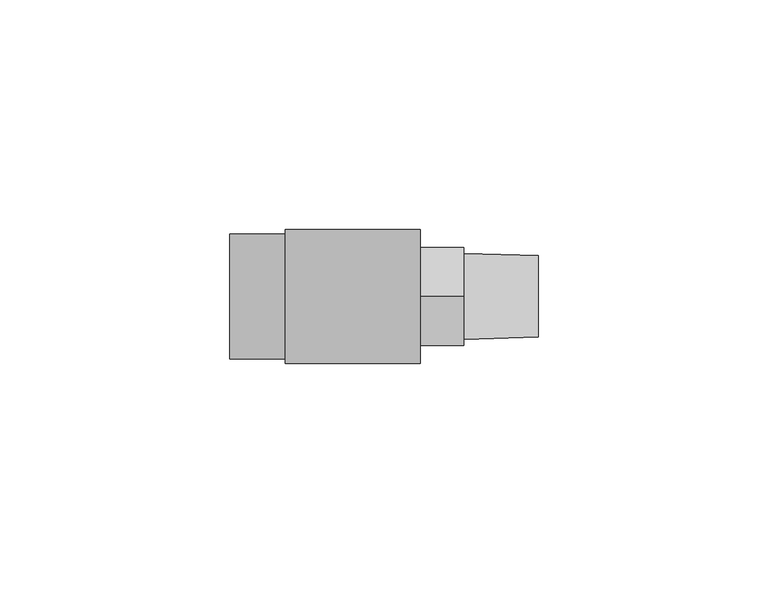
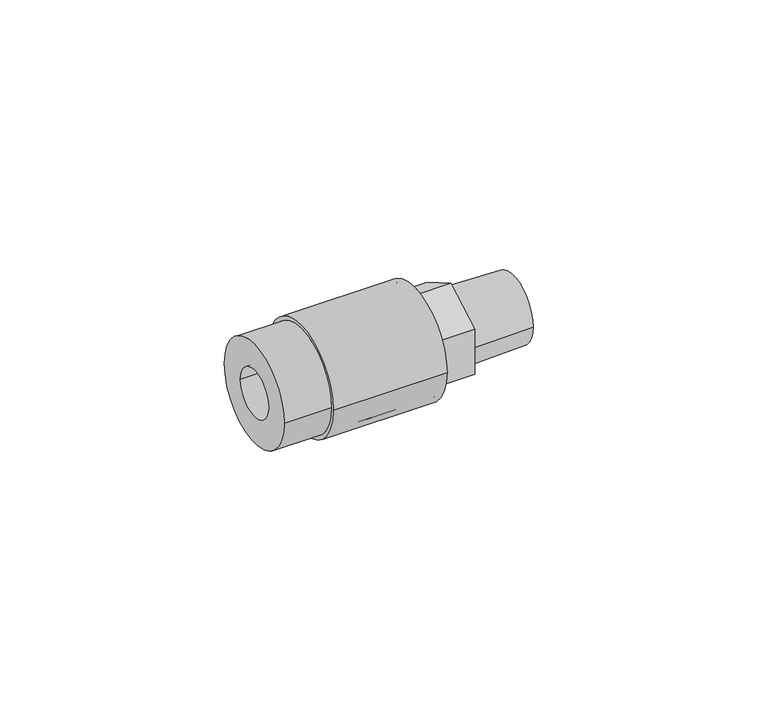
"""IFC4 building model written with IfcOpenShell, lengths in millimetres: pipe fitting geometry, Aquatherm - Fusion Outlet Transition Male : POTABLE BRASS - HEX."""

from ifc_helpers import new_model, si_unit, frame, origin, place, context, project, spatial, polyline, circle_curve, source, transform, mapped, element, save
from ifc_brep_helpers import plane_surface, cylinder_surface, revolved_surface, advanced_brep


def pipe_fitting_213a66a3(model_context):
    return source(origin(), model_context, "Body", "AdvancedBrep", [
        advanced_brep(
        [(9.445625, 13.589, 0.0), (9.445625, -13.589, 0.0), (9.445625, 6.35, 0.0), (9.445625, -6.35, 0.0), (29.257625, 13.589, 0.0), (29.257625, -13.589, 0.0), (29.257625, 0.0, -12.3183453), (29.257625, -10.668, -6.1591727), (29.257625, -10.668, 6.1591727), (29.257625, 0.0, 12.3183453), (29.257625, 10.668, 6.1591727), (29.257625, 10.668, -6.1591727), (29.257625, 6.35, 0.0), (29.257625, -6.35, 0.0), (38.909625, 0.0, -12.3183453), (38.909625, 10.668, -6.1591727), (38.909625, 10.668, 6.1591727), (38.909625, 0.0, 12.3183453), (38.909625, -10.668, 6.1591727), (38.909625, -10.668, -6.1591727), (38.909625, 9.3810449, 0.0), (38.909625, -9.3810449, 0.0), (38.909625, 6.35, 0.0), (38.909625, -6.35, 0.0), (55.165625, -6.35, 0.0), (55.165625, 6.35, 0.0), (55.165625, -8.8752051, 0.0), (55.165625, 8.8752051, 0.0)],
        [
            (0, 1, circle_curve(frame((9.445625, 0.0, 0.0), z_axis=(-1.0, 0.0, 0.0), x_axis=(0.0, -1.0, 0.0)), 13.589)),
            (1, 0, circle_curve(frame((9.445625, 0.0, 0.0), z_axis=(-1.0, 0.0, 0.0), x_axis=(0.0, -1.0, 0.0)), 13.589)),
            (2, 3, circle_curve(frame((9.445625, 0.0, 0.0), z_axis=(1.0, 0.0, 0.0), x_axis=(0.0, -1.0, 0.0)), 6.35)),
            (3, 2, circle_curve(frame((9.445625, 0.0, 0.0), z_axis=(1.0, 0.0, 0.0), x_axis=(0.0, -1.0, 0.0)), 6.35)),
            (4, 5, circle_curve(frame((29.257625, 0.0, 0.0), z_axis=(1.0, 0.0, 0.0), x_axis=(0.0, -1.0, 0.0)), 13.589)),
            (5, 4, circle_curve(frame((29.257625, 0.0, 0.0), z_axis=(1.0, 0.0, 0.0), x_axis=(0.0, -1.0, 0.0)), 13.589)),
            (6, 7),
            (7, 8),
            (8, 9),
            (9, 10),
            (10, 11),
            (11, 6),
            (0, 4),
            (5, 1),
            (2, 12),
            (12, 13, circle_curve(frame((29.257625, 0.0, 0.0), z_axis=(1.0, 0.0, 0.0), x_axis=(0.0, -1.0, 0.0)), 6.35)),
            (13, 3),
            (13, 12, circle_curve(frame((29.257625, 0.0, 0.0), z_axis=(1.0, 0.0, 0.0), x_axis=(0.0, -1.0, 0.0)), 6.35)),
            (14, 15),
            (15, 16),
            (16, 17),
            (17, 18),
            (18, 19),
            (19, 14),
            (20, 21, circle_curve(frame((38.909625, 0.0, 0.0), z_axis=(-1.0, 0.0, 0.0), x_axis=(0.0, -1.0, 0.0)), 9.3810449)),
            (21, 20, circle_curve(frame((38.909625, 0.0, 0.0), z_axis=(-1.0, 0.0, 0.0), x_axis=(0.0, -1.0, 0.0)), 9.3810449)),
            (19, 7),
            (6, 14),
            (18, 8),
            (17, 9),
            (16, 10),
            (15, 11),
            (12, 22),
            (22, 23, circle_curve(frame((38.909625, 0.0, 0.0), z_axis=(1.0, 0.0, 0.0), x_axis=(0.0, -1.0, 0.0)), 6.35)),
            (23, 13),
            (23, 22, circle_curve(frame((38.909625, 0.0, 0.0), z_axis=(1.0, 0.0, 0.0), x_axis=(0.0, -1.0, 0.0)), 6.35)),
            (23, 24),
            (24, 25, circle_curve(frame((55.165625, 0.0, 0.0), z_axis=(1.0, 0.0, 0.0), x_axis=(0.0, -1.0, 0.0)), 6.35)),
            (25, 22),
            (25, 24, circle_curve(frame((55.165625, 0.0, 0.0), z_axis=(1.0, 0.0, 0.0), x_axis=(0.0, -1.0, 0.0)), 6.35)),
            (24, 26),
            (26, 27, circle_curve(frame((55.165625, 0.0, 0.0), z_axis=(1.0, 0.0, 0.0), x_axis=(0.0, -1.0, 0.0)), 8.8752051)),
            (27, 25),
            (27, 26, circle_curve(frame((55.165625, 0.0, 0.0), z_axis=(1.0, 0.0, 0.0), x_axis=(0.0, -1.0, 0.0)), 8.8752051)),
            (26, 21),
            (20, 27),
        ],
        [
            plane_surface(frame((9.445625, -13.589, 0.0), z_axis=(-1.0, 0.0, 0.0), x_axis=(0.0, 0.0, 1.0))),
            plane_surface(frame((29.257625, -13.589, 0.0), z_axis=(1.0, 0.0, 0.0), x_axis=(0.0, 0.0, -1.0))),
            cylinder_surface(frame((29.257625, 0.0, 0.0), z_axis=(-1.0, 0.0, 0.0), x_axis=(0.0, -1.0, 0.0)), 13.589),
            revolved_surface(polyline([(29.257625, -6.35, 0.0), (9.445625, -6.35, 0.0)]), (11.810406, 0.0, 0.0), (1.0, 0.0, 0.0)),
            plane_surface(frame((38.909625, 0.0, -12.3183453), z_axis=(1.0, 0.0, 0.0), x_axis=(0.0, 0.8660254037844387, -0.5))),
            plane_surface(frame((29.257625, 0.0, -12.3183453), z_axis=(0.0, -0.5, -0.8660254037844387), x_axis=(1.0, 0.0, 0.0))),
            plane_surface(frame((29.257625, -10.668, -6.1591727), z_axis=(0.0, -1.0, 0.0), x_axis=(1.0, 0.0, 0.0))),
            plane_surface(frame((29.257625, -10.668, 6.1591727), z_axis=(0.0, -0.49999999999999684, 0.8660254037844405), x_axis=(1.0, 0.0, 0.0))),
            plane_surface(frame((29.257625, 0.0, 12.3183453), z_axis=(0.0, 0.5000000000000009, 0.8660254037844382), x_axis=(1.0, 0.0, 0.0))),
            plane_surface(frame((29.257625, 10.668, 6.1591727), z_axis=(0.0, 1.0, 0.0), x_axis=(1.0, 0.0, 0.0))),
            plane_surface(frame((29.257625, 10.668, -6.1591727), z_axis=(0.0, 0.49999999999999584, -0.8660254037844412), x_axis=(1.0, 0.0, 0.0))),
            revolved_surface(polyline([(38.909625, -6.35, 0.0), (29.257625, -6.35, 0.0)]), (29.257625, 0.0, 0.0), (1.0, 0.0, 0.0)),
            revolved_surface(polyline([(55.165625, -6.35, 0.0), (38.909625, -6.35, 0.0)]), (90.0386938, 0.0, 0.0), (1.0, 0.0, 0.0)),
            plane_surface(frame((55.165625, 0.0, 0.0), z_axis=(1.0, 0.0, 0.0), x_axis=(0.0, -1.0, 0.0))),
            revolved_surface(polyline([(38.909625, -9.3810449, 0.0), (55.165625, -8.8752051, 0.0)]), (90.0386938, 0.0, 0.0), (1.0, 0.0, 0.0)),
        ],
        [
            (0, [[1, 2], [3, 4]]),
            (1, [[5, 6], [7, 8, 9, 10, 11, 12]]),
            (2, [[-1, 13, -6, 14]]),
            (2, [[-2, -14, -5, -13]]),
            (3, [[-3, 15, 16, 17]]),
            (3, [[-4, -17, 18, -15]]),
            (4, [[19, 20, 21, 22, 23, 24], [25, 26]]),
            (5, [[-24, 27, -7, 28]]),
            (6, [[-23, 29, -8, -27]]),
            (7, [[-22, 30, -9, -29]]),
            (8, [[-21, 31, -10, -30]]),
            (9, [[-20, 32, -11, -31]]),
            (10, [[-19, -28, -12, -32]]),
            (11, [[33, 34, 35, -16]]),
            (11, [[-33, -18, -35, 36]]),
            (12, [[37, 38, 39, -36]]),
            (12, [[-37, -34, -39, 40]]),
            (13, [[-38, 41, 42, 43]]),
            (13, [[-40, -43, 44, -41]]),
            (14, [[-42, 45, -25, 46]]),
            (14, [[-44, -46, -26, -45]]),
        ],
    ),
        advanced_brep(
        [(9.4257813, 13.5929688, 0.0), (9.4257813, -13.5929687, 0.0), (9.4257813, 6.35, 0.0), (9.4257813, -6.35, 0.0), (-12.1508108, -6.35, 0.0), (-12.1508108, 6.35, 0.0), (-12.1508108, -13.5929688, 0.0), (-12.1508108, 13.5929688, 0.0), (0.0, 13.5929688, 0.0), (0.0, -13.5929688, 0.0), (29.4441562, 14.6347656, 0.0), (29.4441562, -14.6347656, 0.0), (29.4441562, 13.5929688, 0.0), (29.4441562, -13.5929687, 0.0), (0.0, -14.6347656, 0.0), (0.0, 14.6347656, 0.0)],
        [
            (0, 1, circle_curve(frame((9.4257813, 0.0, 0.0), z_axis=(1.0, 0.0, 0.0), x_axis=(0.0, -1.0, 0.0)), 13.5929688)),
            (1, 0, circle_curve(frame((9.4257813, 0.0, 0.0), z_axis=(1.0, 0.0, 0.0), x_axis=(0.0, -1.0, 0.0)), 13.5929688)),
            (2, 3, circle_curve(frame((9.4257813, 0.0, 0.0), z_axis=(-1.0, 0.0, 0.0), x_axis=(0.0, -1.0, 0.0)), 6.35)),
            (3, 2, circle_curve(frame((9.4257813, 0.0, 0.0), z_axis=(-1.0, 0.0, 0.0), x_axis=(0.0, -1.0, 0.0)), 6.35)),
            (4, 5, circle_curve(frame((-12.1508108, 0.0, 0.0), z_axis=(-1.0, 0.0, 0.0), x_axis=(0.0, -1.0, 0.0)), 6.35)),
            (5, 2),
            (3, 4),
            (5, 4, circle_curve(frame((-12.1508108, 0.0, 0.0), z_axis=(-1.0, 0.0, 0.0), x_axis=(0.0, -1.0, 0.0)), 6.35)),
            (6, 7, circle_curve(frame((-12.1508108, 0.0, 0.0), z_axis=(1.0, 0.0, 0.0), x_axis=(0.0, -1.0, 0.0)), 13.5929688)),
            (7, 8),
            (8, 9, circle_curve(frame((0.0, 0.0, 0.0), z_axis=(-1.0, 0.0, 0.0), x_axis=(0.0, -1.0, 0.0)), 13.5929688)),
            (9, 6),
            (7, 6, circle_curve(frame((-12.1508108, 0.0, 0.0), z_axis=(1.0, 0.0, 0.0), x_axis=(0.0, -1.0, 0.0)), 13.5929688)),
            (9, 8, circle_curve(frame((0.0, 0.0, 0.0), z_axis=(-1.0, 0.0, 0.0), x_axis=(0.0, -1.0, 0.0)), 13.5929688)),
            (10, 11, circle_curve(frame((29.4441562, 0.0, 0.0), z_axis=(1.0, 0.0, 0.0), x_axis=(0.0, -1.0, 0.0)), 14.6347656)),
            (11, 10, circle_curve(frame((29.4441562, 0.0, 0.0), z_axis=(1.0, 0.0, 0.0), x_axis=(0.0, -1.0, 0.0)), 14.6347656)),
            (12, 13, circle_curve(frame((29.4441562, 0.0, 0.0), z_axis=(-1.0, 0.0, 0.0), x_axis=(0.0, -1.0, 0.0)), 13.5929688)),
            (13, 12, circle_curve(frame((29.4441562, 0.0, 0.0), z_axis=(-1.0, 0.0, 0.0), x_axis=(0.0, -1.0, 0.0)), 13.5929688)),
            (13, 1),
            (0, 12),
            (11, 14),
            (14, 15, circle_curve(frame((0.0, 0.0, 0.0), z_axis=(1.0, 0.0, 0.0), x_axis=(0.0, -1.0, 0.0)), 14.6347656)),
            (15, 10),
            (15, 14, circle_curve(frame((0.0, 0.0, 0.0), z_axis=(1.0, 0.0, 0.0), x_axis=(0.0, -1.0, 0.0)), 14.6347656)),
        ],
        [
            plane_surface(frame((9.4257813, -6.35, 0.0), z_axis=(1.0, 0.0, 0.0), x_axis=(0.0, 0.0, 1.0))),
            revolved_surface(polyline([(9.4257813, -6.35, 0.0), (-12.150810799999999, -6.35, 0.0)]), (9.4257813, 0.0, 0.0), (1.0, 0.0, 0.0)),
            cylinder_surface(frame((0.0, 0.0, 0.0), z_axis=(-1.0, 0.0, 0.0), x_axis=(0.0, -1.0, 0.0)), 13.5929688),
            plane_surface(frame((29.4441562, -13.5929687, 0.0), z_axis=(1.0, 0.0, 0.0), x_axis=(0.0, 0.0, 1.0))),
            revolved_surface(polyline([(29.4441562, -13.5929688, 0.0), (9.4257813, -13.5929688, 0.0)]), (29.4441562, 0.0, 0.0), (1.0, 0.0, 0.0)),
            cylinder_surface(frame((0.0, 0.0, 0.0), z_axis=(-1.0, 0.0, 0.0), x_axis=(0.0, -1.0, 0.0)), 14.6347656),
            plane_surface(frame((-12.1508108, -6.35, 0.0), z_axis=(-1.0, 0.0, 0.0), x_axis=(0.0, 0.0, -1.0))),
            plane_surface(frame((0.0, -13.5929687, 0.0), z_axis=(-1.0, 0.0, 0.0), x_axis=(0.0, 0.0, -1.0))),
        ],
        [
            (0, [[1, 2], [3, 4]]),
            (1, [[5, 6, -4, 7]]),
            (1, [[8, -7, -3, -6]]),
            (2, [[9, 10, 11, 12]]),
            (2, [[13, -12, 14, -10]]),
            (3, [[15, 16], [17, 18]]),
            (4, [[-18, 19, -1, 20]]),
            (4, [[-17, -20, -2, -19]]),
            (5, [[-16, 21, 22, 23]]),
            (5, [[-15, -23, 24, -21]]),
            (6, [[-9, -13], [-5, -8]]),
            (7, [[-22, -24], [-11, -14]]),
        ],
    ),
    ])


if __name__ == "__main__":
    model = new_model("IFC4")
    model_context = context("Model", 3, world=origin())
    ifc_project = project(units=[si_unit("LENGTHUNIT", "METRE", prefix="MILLI")], contexts=[model_context])
    site = spatial("IfcSite", under=ifc_project)
    building = spatial("IfcBuilding", under=site)
    placement = place(None, origin())
    pipe_fitting_shape = pipe_fitting_213a66a3(model_context)
    element("IfcPipeFitting", 1, ObjectType="Aquatherm - Fusion Outlet Transition Male : POTABLE BRASS - HEX", at=placement, inside=building, context=model_context, shape_type="MappedRepresentation", body=[
        mapped(pipe_fitting_shape, transform((0.0, 0.0, 0.0), x_axis=(1.0, 0.0, 0.0), y_axis=(0.0, 1.0, 0.0), z_axis=(0.0, 0.0, 1.0))),
    ])
    save(model, "model.ifc")
